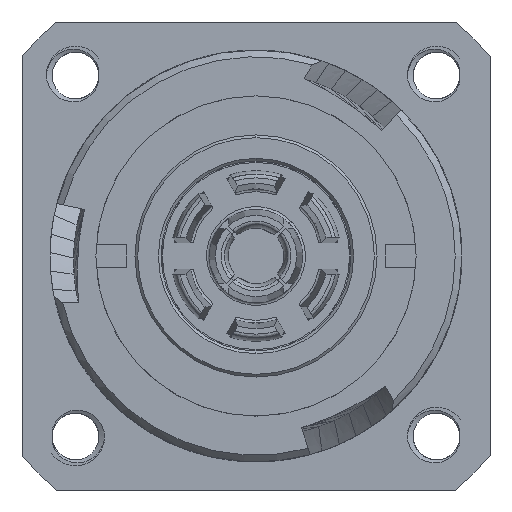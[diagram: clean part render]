
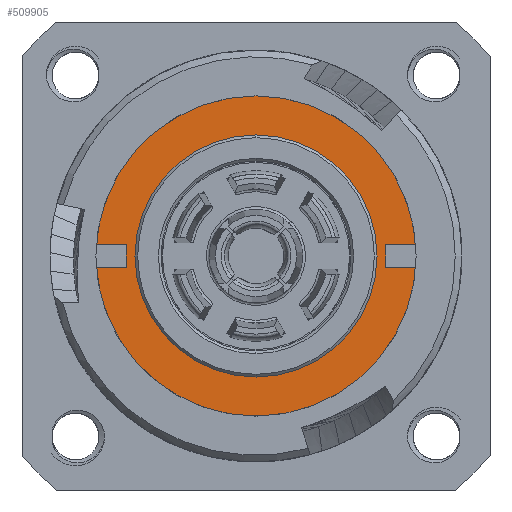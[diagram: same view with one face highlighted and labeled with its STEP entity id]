
A CAD part, left-side view. The second image highlights one B-rep face of the part: STEP entity #509905.
In plain terms, the highlighted planar face has unit normal (-1, 0, 0).
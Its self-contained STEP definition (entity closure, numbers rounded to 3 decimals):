
#153137=CARTESIAN_POINT('',(17.8,0.,0.));
#153138=DIRECTION('',(1.,0.,0.));
#153139=DIRECTION('',(0.,0.998,0.069));
#153140=AXIS2_PLACEMENT_3D('',#153137,#153138,#153139);
#153142=CARTESIAN_POINT('',(17.8,0.,0.));
#153143=DIRECTION('',(1.,0.,0.));
#153144=DIRECTION('',(0.,-0.998,0.069));
#153145=AXIS2_PLACEMENT_3D('',#153142,#153143,#153144);
#153147=CARTESIAN_POINT('',(17.8,0.,0.));
#153148=DIRECTION('',(1.,0.,0.));
#153149=DIRECTION('',(0.,-1.,0.));
#153150=AXIS2_PLACEMENT_3D('',#153147,#153148,#153149);
#153152=CARTESIAN_POINT('',(17.8,0.,0.));
#153153=DIRECTION('',(1.,0.,0.));
#153154=DIRECTION('',(0.,0.998,-0.069));
#153155=AXIS2_PLACEMENT_3D('',#153152,#153153,#153154);
#153157=CARTESIAN_POINT('',(17.8,0.,0.));
#153158=DIRECTION('',(1.,0.,0.));
#153159=DIRECTION('',(0.,1.,0.));
#153160=AXIS2_PLACEMENT_3D('',#153157,#153158,#153159);
#153162=CARTESIAN_POINT('',(17.8,0.,0.));
#153163=DIRECTION('',(-1.,0.,0.));
#153164=DIRECTION('',(0.,-1.,0.));
#153165=AXIS2_PLACEMENT_3D('',#153162,#153163,#153164);
#153167=CARTESIAN_POINT('',(17.8,0.,0.));
#153168=DIRECTION('',(-1.,0.,0.));
#153169=DIRECTION('',(0.,1.,0.));
#153170=AXIS2_PLACEMENT_3D('',#153167,#153168,#153169);
#186509=CARTESIAN_POINT('',(17.8,-11.947,0.825));
#186510=CARTESIAN_POINT('',(17.8,-11.975,0.));
#186511=VERTEX_POINT('',#186509);
#186512=VERTEX_POINT('',#186510);
#186513=CARTESIAN_POINT('',(17.8,11.947,-0.825));
#186514=VERTEX_POINT('',#186513);
#186515=CARTESIAN_POINT('',(17.8,11.975,0.));
#186516=VERTEX_POINT('',#186515);
#186517=CARTESIAN_POINT('',(17.8,11.947,0.825));
#186518=VERTEX_POINT('',#186517);
#186539=CARTESIAN_POINT('',(17.8,-9.05,0.));
#186540=CARTESIAN_POINT('',(17.8,9.05,0.));
#186541=VERTEX_POINT('',#186539);
#186542=VERTEX_POINT('',#186540);
#509886=CARTESIAN_POINT('',(17.8,0.,0.));
#509887=DIRECTION('',(-1.,0.,0.));
#509888=DIRECTION('',(0.,1.,0.));
#509889=AXIS2_PLACEMENT_3D('',#509886,#509887,#509888);
#509890=PLANE('12241',#509889);
#509892=ORIENTED_EDGE('40308',*,*,#509891,.T.);
#509893=ORIENTED_EDGE('40292',*,*,#509849,.T.);
#509894=ORIENTED_EDGE('40293',*,*,#509847,.T.);
#509895=ORIENTED_EDGE('40294',*,*,#509845,.T.);
#509896=ORIENTED_EDGE('40295',*,*,#509843,.T.);
#509897=EDGE_LOOP('12241',(#509892,#509893,#509894,#509895,#509896));
#509898=FACE_OUTER_BOUND('12241',#509897,.F.);
#509900=ORIENTED_EDGE('40309',*,*,#509899,.T.);
#509902=ORIENTED_EDGE('40310',*,*,#509901,.T.);
#509903=EDGE_LOOP('12241',(#509900,#509902));
#509904=FACE_BOUND('12241',#509903,.F.);
#153141=CIRCLE('40308',#153140,11.975);
#153146=CIRCLE('40292',#153145,11.975);
#153151=CIRCLE('40293',#153150,11.975);
#153156=CIRCLE('40294',#153155,11.975);
#153161=CIRCLE('40295',#153160,11.975);
#153166=CIRCLE('40309',#153165,9.05);
#153171=CIRCLE('40310',#153170,9.05);
#509843=EDGE_CURVE('40295',#186516,#186518,#153161,.T.);
#509845=EDGE_CURVE('40294',#186514,#186516,#153156,.T.);
#509847=EDGE_CURVE('40293',#186512,#186514,#153151,.T.);
#509849=EDGE_CURVE('40292',#186511,#186512,#153146,.T.);
#509891=EDGE_CURVE('40308',#186518,#186511,#153141,.T.);
#509899=EDGE_CURVE('40309',#186541,#186542,#153166,.T.);
#509901=EDGE_CURVE('40310',#186542,#186541,#153171,.T.);
#509905=ADVANCED_FACE('12241',(#509898,#509904),#509890,.T.);
